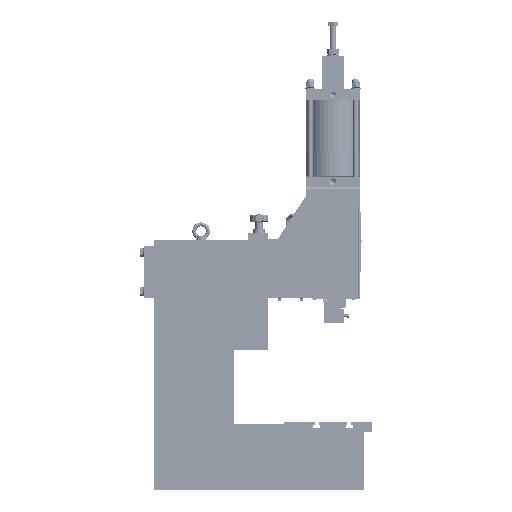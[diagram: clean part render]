
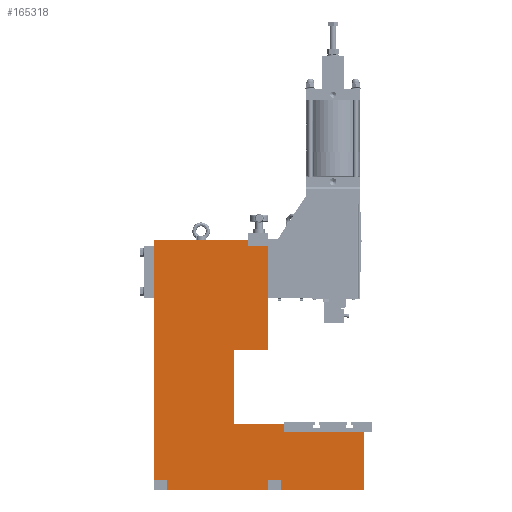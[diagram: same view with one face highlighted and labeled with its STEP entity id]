
A CAD part, left-side view. The second image highlights one B-rep face of the part: STEP entity #165318.
In plain terms, the highlighted planar face has unit normal (-1, 0, 0).
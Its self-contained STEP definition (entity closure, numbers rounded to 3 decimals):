
#5726=PLANE('',#175002);
#19625=FACE_OUTER_BOUND('',#28425,.T.);
#28425=EDGE_LOOP('',(#122806,#122807,#122808,#122809,#122810,#122811,#122812,
#122813,#122814,#122815,#122816,#122817,#122818,#122819,#122820,#122821,
#122822,#122823,#122824,#122825));
#42459=CIRCLE('',#175003,5.);
#42460=CIRCLE('',#175004,5.);
#47764=LINE('',#223202,#63466);
#47765=LINE('',#223204,#63467);
#47766=LINE('',#223206,#63468);
#47767=LINE('',#223208,#63469);
#47768=LINE('',#223210,#63470);
#47769=LINE('',#223212,#63471);
#47770=LINE('',#223216,#63472);
#47771=LINE('',#223220,#63473);
#47772=LINE('',#223222,#63474);
#47773=LINE('',#223224,#63475);
#47774=LINE('',#223226,#63476);
#47775=LINE('',#223228,#63477);
#47776=LINE('',#223230,#63478);
#47777=LINE('',#223232,#63479);
#47778=LINE('',#223234,#63480);
#47779=LINE('',#223236,#63481);
#47780=LINE('',#223238,#63482);
#47781=LINE('',#223239,#63483);
#63466=VECTOR('',#188107,10.);
#63467=VECTOR('',#188108,10.);
#63468=VECTOR('',#188109,10.);
#63469=VECTOR('',#188110,10.);
#63470=VECTOR('',#188111,10.);
#63471=VECTOR('',#188112,10.);
#63472=VECTOR('',#188115,10.);
#63473=VECTOR('',#188118,10.);
#63474=VECTOR('',#188119,10.);
#63475=VECTOR('',#188120,10.);
#63476=VECTOR('',#188121,10.);
#63477=VECTOR('',#188122,10.);
#63478=VECTOR('',#188123,10.);
#63479=VECTOR('',#188124,10.);
#63480=VECTOR('',#188125,10.);
#63481=VECTOR('',#188126,10.);
#63482=VECTOR('',#188127,10.);
#63483=VECTOR('',#188128,10.);
#78242=VERTEX_POINT('',#223200);
#78243=VERTEX_POINT('',#223201);
#78244=VERTEX_POINT('',#223203);
#78245=VERTEX_POINT('',#223205);
#78246=VERTEX_POINT('',#223207);
#78247=VERTEX_POINT('',#223209);
#78248=VERTEX_POINT('',#223211);
#78249=VERTEX_POINT('',#223213);
#78250=VERTEX_POINT('',#223215);
#78251=VERTEX_POINT('',#223217);
#78252=VERTEX_POINT('',#223219);
#78253=VERTEX_POINT('',#223221);
#78254=VERTEX_POINT('',#223223);
#78255=VERTEX_POINT('',#223225);
#78256=VERTEX_POINT('',#223227);
#78257=VERTEX_POINT('',#223229);
#78258=VERTEX_POINT('',#223231);
#78259=VERTEX_POINT('',#223233);
#78260=VERTEX_POINT('',#223235);
#78261=VERTEX_POINT('',#223237);
#95395=EDGE_CURVE('',#78242,#78243,#47764,.T.);
#95396=EDGE_CURVE('',#78244,#78243,#47765,.T.);
#95397=EDGE_CURVE('',#78245,#78244,#47766,.T.);
#95398=EDGE_CURVE('',#78246,#78245,#47767,.T.);
#95399=EDGE_CURVE('',#78247,#78246,#47768,.T.);
#95400=EDGE_CURVE('',#78248,#78247,#47769,.T.);
#95401=EDGE_CURVE('',#78249,#78248,#42459,.T.);
#95402=EDGE_CURVE('',#78250,#78249,#47770,.T.);
#95403=EDGE_CURVE('',#78251,#78250,#42460,.T.);
#95404=EDGE_CURVE('',#78252,#78251,#47771,.T.);
#95405=EDGE_CURVE('',#78253,#78252,#47772,.T.);
#95406=EDGE_CURVE('',#78254,#78253,#47773,.T.);
#95407=EDGE_CURVE('',#78255,#78254,#47774,.T.);
#95408=EDGE_CURVE('',#78256,#78255,#47775,.T.);
#95409=EDGE_CURVE('',#78257,#78256,#47776,.T.);
#95410=EDGE_CURVE('',#78257,#78258,#47777,.T.);
#95411=EDGE_CURVE('',#78258,#78259,#47778,.T.);
#95412=EDGE_CURVE('',#78260,#78259,#47779,.T.);
#95413=EDGE_CURVE('',#78260,#78261,#47780,.T.);
#95414=EDGE_CURVE('',#78261,#78242,#47781,.T.);
#122806=ORIENTED_EDGE('',*,*,#95395,.T.);
#122807=ORIENTED_EDGE('',*,*,#95396,.F.);
#122808=ORIENTED_EDGE('',*,*,#95397,.F.);
#122809=ORIENTED_EDGE('',*,*,#95398,.F.);
#122810=ORIENTED_EDGE('',*,*,#95399,.F.);
#122811=ORIENTED_EDGE('',*,*,#95400,.F.);
#122812=ORIENTED_EDGE('',*,*,#95401,.F.);
#122813=ORIENTED_EDGE('',*,*,#95402,.F.);
#122814=ORIENTED_EDGE('',*,*,#95403,.F.);
#122815=ORIENTED_EDGE('',*,*,#95404,.F.);
#122816=ORIENTED_EDGE('',*,*,#95405,.F.);
#122817=ORIENTED_EDGE('',*,*,#95406,.F.);
#122818=ORIENTED_EDGE('',*,*,#95407,.F.);
#122819=ORIENTED_EDGE('',*,*,#95408,.F.);
#122820=ORIENTED_EDGE('',*,*,#95409,.F.);
#122821=ORIENTED_EDGE('',*,*,#95410,.T.);
#122822=ORIENTED_EDGE('',*,*,#95411,.T.);
#122823=ORIENTED_EDGE('',*,*,#95412,.F.);
#122824=ORIENTED_EDGE('',*,*,#95413,.T.);
#122825=ORIENTED_EDGE('',*,*,#95414,.T.);
#165318=ADVANCED_FACE('',(#19625),#5726,.T.);
#175002=AXIS2_PLACEMENT_3D('',#223199,#188105,#188106);
#175003=AXIS2_PLACEMENT_3D('',#223214,#188113,#188114);
#175004=AXIS2_PLACEMENT_3D('',#223218,#188116,#188117);
#188105=DIRECTION('center_axis',(-1.,0.,0.));
#188106=DIRECTION('ref_axis',(0.,0.,
1.));
#188107=DIRECTION('',(0.,-1.,0.));
#188108=DIRECTION('',(0.,0.,-1.));
#188109=DIRECTION('',(0.,-1.,0.));
#188110=DIRECTION('',(0.,0.,1.));
#188111=DIRECTION('',(0.,-1.,0.));
#188112=DIRECTION('',(0.,0.,1.));
#188113=DIRECTION('center_axis',(-1.,0.,0.));
#188114=DIRECTION('ref_axis',(0.,-0.707,-0.707));
#188115=DIRECTION('',(0.,-1.,0.));
#188116=DIRECTION('center_axis',(-1.,0.,0.));
#188117=DIRECTION('ref_axis',(0.,0.707,-0.707));
#188118=DIRECTION('',(0.,0.,-1.));
#188119=DIRECTION('',(0.,-1.,0.));
#188120=DIRECTION('',(0.,0.,1.));
#188121=DIRECTION('',(0.,-1.,0.));
#188122=DIRECTION('',(0.,0.,1.));
#188123=DIRECTION('',(0.,1.,0.));
#188124=DIRECTION('',(0.,0.,1.));
#188125=DIRECTION('',(0.,-1.,0.));
#188126=DIRECTION('',(0.,0.,-1.));
#188127=DIRECTION('',(0.,1.,0.));
#188128=DIRECTION('',(0.,0.,1.));
#223199=CARTESIAN_POINT('Origin',(-84.,322.471,110.598));
#223200=CARTESIAN_POINT('',(-84.,30.,245.));
#223201=CARTESIAN_POINT('',(-84.,0.,245.));
#223202=CARTESIAN_POINT('',(-84.,161.236,245.));
#223203=CARTESIAN_POINT('',(-84.,0.,500.));
#223204=CARTESIAN_POINT('',(-84.,0.,-145.));
#223205=CARTESIAN_POINT('',(-84.,179.,500.));
#223206=CARTESIAN_POINT('',(-84.,0.,500.));
#223207=CARTESIAN_POINT('',(-84.,179.,255.));
#223208=CARTESIAN_POINT('',(-84.,179.,500.));
#223209=CARTESIAN_POINT('',(-84.,202.,255.));
#223210=CARTESIAN_POINT('',(-84.,179.,255.));
#223211=CARTESIAN_POINT('',(-84.,202.,105.));
#223212=CARTESIAN_POINT('',(-84.,202.,255.));
#223213=CARTESIAN_POINT('',(-84.,207.,100.));
#223214=CARTESIAN_POINT('Origin',(-84.,207.,105.));
#223215=CARTESIAN_POINT('',(-84.,425.,100.));
#223216=CARTESIAN_POINT('',(-84.,202.,100.));
#223217=CARTESIAN_POINT('',(-84.,430.,105.));
#223218=CARTESIAN_POINT('Origin',(-84.,425.,105.));
#223219=CARTESIAN_POINT('',(-84.,430.,205.));
#223220=CARTESIAN_POINT('',(-84.,430.,100.));
#223221=CARTESIAN_POINT('',(-84.,750.,205.));
#223222=CARTESIAN_POINT('',(-84.,430.,205.));
#223223=CARTESIAN_POINT('',(-84.,750.,144.));
#223224=CARTESIAN_POINT('',(-84.,750.,205.));
#223225=CARTESIAN_POINT('',(-84.,769.,144.));
#223226=CARTESIAN_POINT('',(-84.,750.,144.));
#223227=CARTESIAN_POINT('',(-84.,769.,-145.));
#223228=CARTESIAN_POINT('',(-84.,769.,144.));
#223229=CARTESIAN_POINT('',(-84.,30.,-145.));
#223230=CARTESIAN_POINT('',(-84.,769.,-145.));
#223231=CARTESIAN_POINT('',(-84.,30.,-105.));
#223232=CARTESIAN_POINT('',(-84.,30.,-7.201));
#223233=CARTESIAN_POINT('',(-84.,0.,-105.));
#223234=CARTESIAN_POINT('',(-84.,161.236,-105.));
#223235=CARTESIAN_POINT('',(-84.,0.,205.));
#223236=CARTESIAN_POINT('',(-84.,0.,-145.));
#223237=CARTESIAN_POINT('',(-84.,30.,205.));
#223238=CARTESIAN_POINT('',(-84.,161.236,205.));
#223239=CARTESIAN_POINT('',(-84.,30.,167.799));
